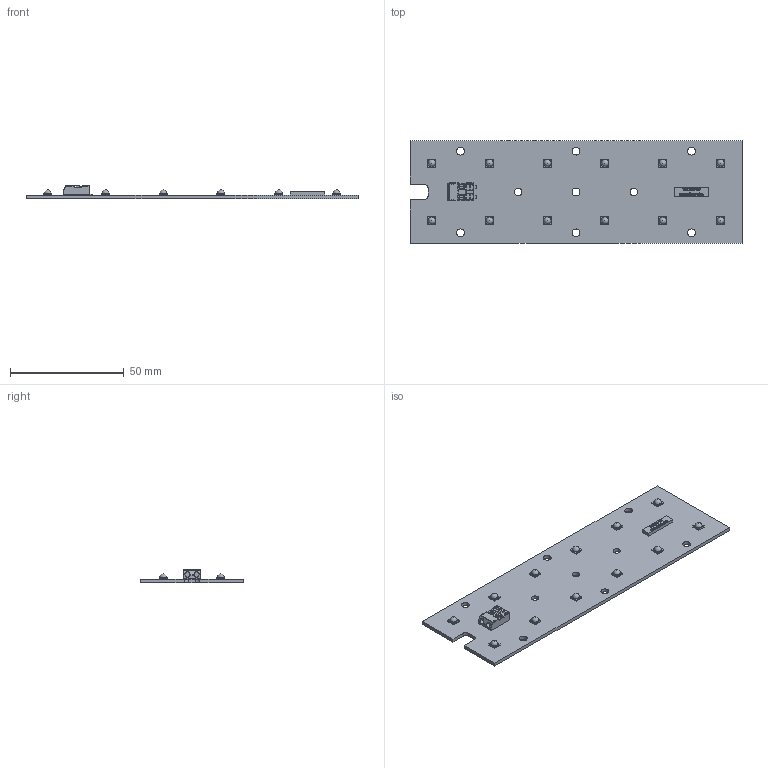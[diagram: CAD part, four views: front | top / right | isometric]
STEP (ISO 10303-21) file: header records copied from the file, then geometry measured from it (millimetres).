
FILE_DESCRIPTION(/* description */ (''),/* implementation_level */ '2;1');
FILE_NAME(/* name */ 'C:\FastFlex 2x6 DP and DPX Gen4.stp',/* time_stamp */ '2019-01-17T12:11:20+01:00',/* author */ ('nlv21627'),/* organization */ (''),/* preprocessor_version */ 'ST-DEVELOPER v16.5',/* originating_system */ 'Autodesk Inventor 2017',/* authorisation */ '');
FILE_SCHEMA (('AUTOMOTIVE_DESIGN { 1 0 10303 214 3 1 1 }'));
Length unit declared in the file: millimetre
Products named in the file (1): 4422-409-57660_simplified
Bounding box: 146 x 45 x 5.85 mm (x, y, z)
Volume: 10909.5 mm3; surface area: 14406.5 mm2
Topology: 1 solids, 49 shells, 1215 faces, 3261 edges, 2143 vertices
Faces by surface type: plane 761, bspline 191, cylinder 165, cone 54, torus 32, sphere 12
Full cylindrical faces by diameter (mm): 0.1 x48, 3.3 x2, 3.5 x7
Entity records: 38994 total; most frequent: CARTESIAN_POINT 9938, ORIENTED_EDGE 6078, DIRECTION 5135, EDGE_CURVE 3039, LINE 2237, VECTOR 2237, VERTEX_POINT 2050, AXIS2_PLACEMENT_3D 1449
